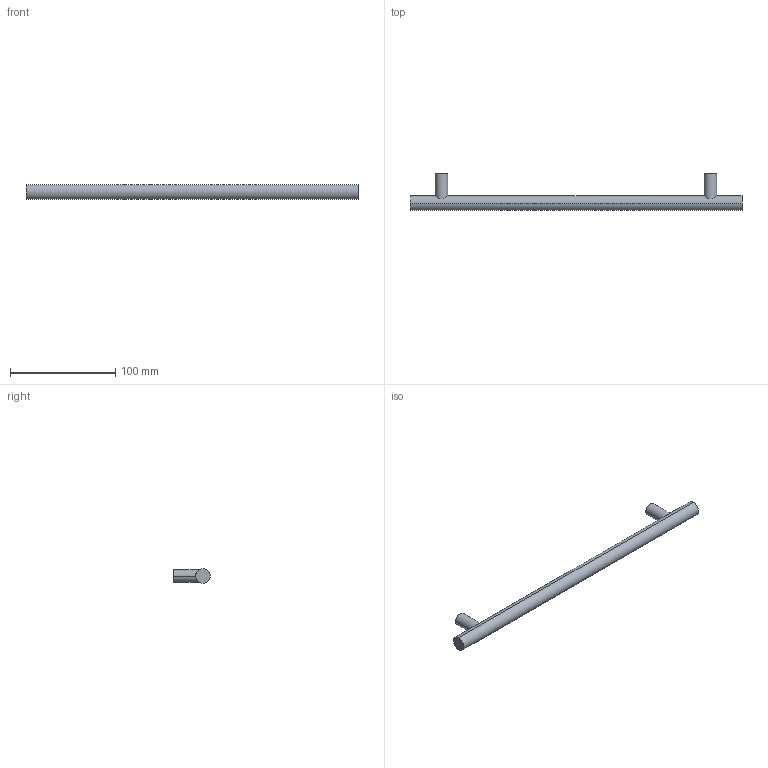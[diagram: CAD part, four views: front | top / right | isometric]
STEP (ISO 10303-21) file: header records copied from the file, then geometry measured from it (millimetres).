
FILE_DESCRIPTION( ( '' ), '1' );
FILE_NAME( 'D:/1.AUTOCAD EXPORT/Group 10/sheet_10_1/9071052.stp', '2013-10-21T10:07:54', ( '' ), ( '' ), ' ', ' ', ' ' );
FILE_SCHEMA( ( 'automotive_design' ) );
Length unit declared in the file: millimetre
Products named in the file (1): 1
Bounding box: 316 x 35 x 14 mm (x, y, z)
Volume: 53256.4 mm3; surface area: 16178.1 mm2
Topology: 1 solids, 1 shells, 16 faces, 32 edges, 22 vertices
Faces by surface type: cylinder 10, plane 6
Entity records: 972 total; most frequent: CARTESIAN_POINT 205, DIRECTION 76, STYLED_ITEM 71, PRESENTATION_STYLE_ASSIGNMENT 71, COLOUR_RGB 71, ORIENTED_EDGE 64, AXIS2_PLACEMENT_3D 33, EDGE_CURVE 32
